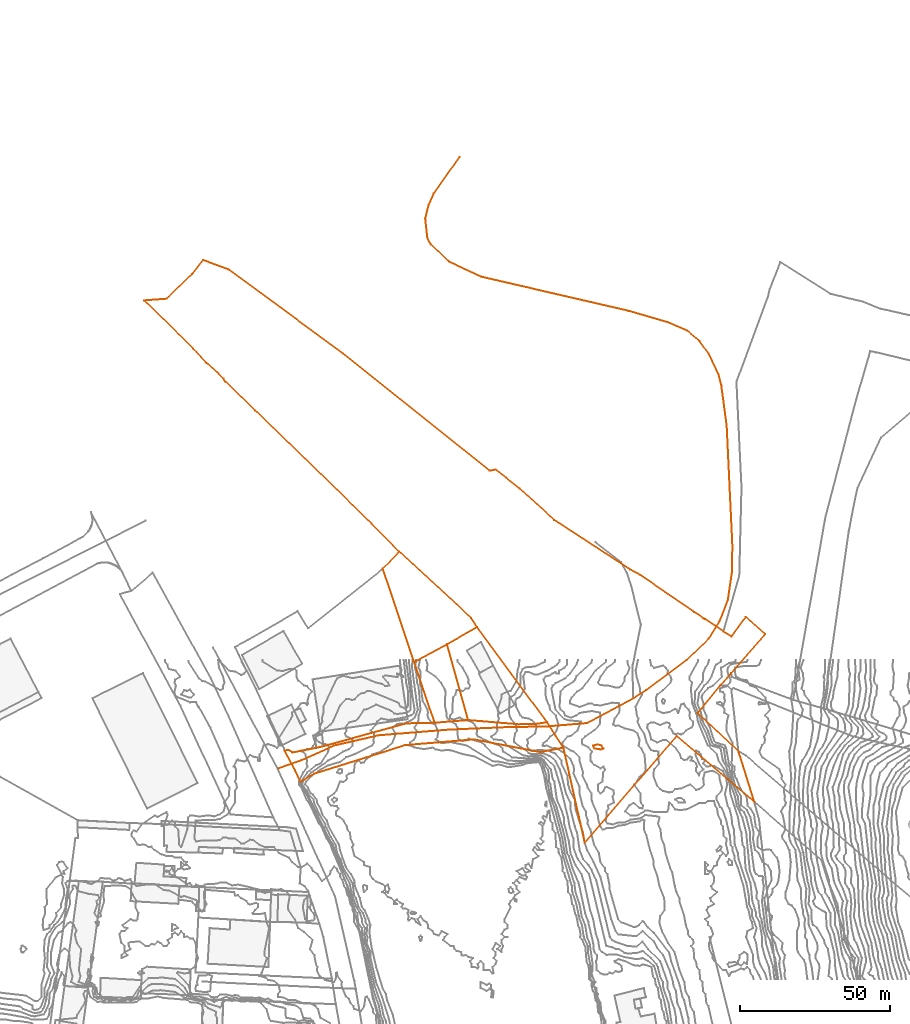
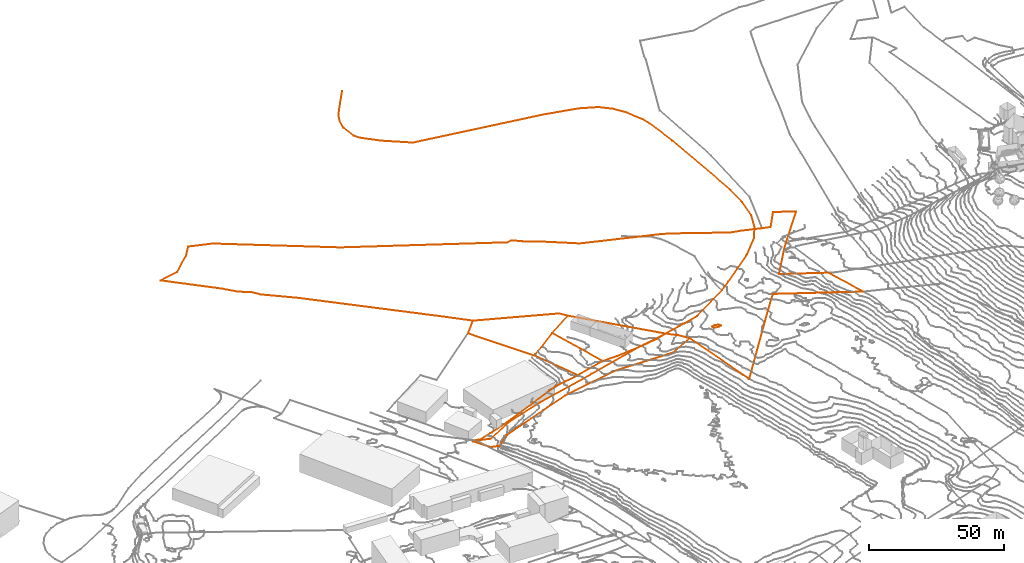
# Not in any storey, part 348 of 419: 8 proxies.
"""IFC2X3 model written with IfcOpenShell, lengths in metres."""

from ifc_helpers import new_model, entity, si_unit, frame, origin_with_axes, place, context, subcontext, project, element, save


model = new_model("IFC2X3")

# Units and contexts
model_context = context("Model", 3, precision=1e-05, world=origin_with_axes())
body_context = subcontext(model_context, "Body", "Model", "MODEL_VIEW")
ifc_project = project(units=[si_unit("AREAUNIT", "SQUARE_METRE"), si_unit("LENGTHUNIT", "METRE")], contexts=[model_context])

# Proxies
proxy_1_placement = place(None, frame((595.2920204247, 996.1976909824, 57.1), z_axis=(0.0, 0.0, 1.0), x_axis=(1.0, 0.0, 0.0)))
element("IfcBuildingElementProxy", 1, at=proxy_1_placement, Name="Route 46", ObjectType="NOTDEFINED", context=body_context, shape_type="GeometricCurveSet", body=[
    entity("IfcGeometricCurveSet", [entity("IfcPolyline", [entity("IfcCartesianPoint", [0.0, 0.0, 0.0]), entity("IfcCartesianPoint", [8.0, 2.7999999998, -3.7]), entity("IfcCartesianPoint", [18.9, 7.7000000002, -2.7]), entity("IfcCartesianPoint", [33.6000000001, 11.1000000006, -1.3]), entity("IfcCartesianPoint", [57.1000000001, 13.0, 2.3]), entity("IfcCartesianPoint", [78.1000000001, 13.9000000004, 6.7]), entity("IfcCartesianPoint", [89.1000000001, 14.0, 8.6]), entity("IfcCartesianPoint", [97.5, 14.7000000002, 9.9]), entity("IfcCartesianPoint", [103.3, 15.2000000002, 10.9]), entity("IfcCartesianPoint", [118.8, 23.5, 12.1])])]),
])
proxy_2_placement = place(None, frame((644.5920204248, 1179.8976909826, 70.0), z_axis=(0.0, 0.0, 1.0), x_axis=(1.0, 0.0, 0.0)))
element("IfcBuildingElementProxy", 2, at=proxy_2_placement, Name="Route 285", ObjectType="NOTDEFINED", context=body_context, shape_type="GeometricCurveSet", body=[
    entity("IfcGeometricCurveSet", [entity("IfcPolyline", [entity("IfcCartesianPoint", [69.5, -160.2000000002, -0.8]), entity("IfcCartesianPoint", [73.8, -157.5, 0.1]), entity("IfcCartesianPoint", [87.3, -147.4000000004, 0.8]), entity("IfcCartesianPoint", [94.7, -140.2999999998, 1.9]), entity("IfcCartesianPoint", [98.3, -134.5, 2.2]), entity("IfcCartesianPoint", [101.1, -127.2000000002, 2.2]), entity("IfcCartesianPoint", [102.4, -118.2999999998, 2.2]), entity("IfcCartesianPoint", [102.6, -109.4000000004, 2.1]), entity("IfcCartesianPoint", [100.7, -69.2999999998, 0.9]), entity("IfcCartesianPoint", [98.9, -55.7000000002, 1.0]), entity("IfcCartesianPoint", [98.0, -52.0999999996, 1.0]), entity("IfcCartesianPoint", [94.7, -45.0999999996, 1.1]), entity("IfcCartesianPoint", [91.6, -40.9000000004, 1.2]), entity("IfcCartesianPoint", [87.4, -37.4000000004, 1.3]), entity("IfcCartesianPoint", [80.9, -34.5999999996, 1.3]), entity("IfcCartesianPoint", [67.9, -30.7999999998, 0.8]), entity("IfcCartesianPoint", [18.6, -19.4000000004, -1.6]), entity("IfcCartesianPoint", [7.9, -14.4000000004, 0.0]), entity("IfcCartesianPoint", [1.9, -8.7000000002, 0.0]), entity("IfcCartesianPoint", [0.7, -6.5, 0.0]), entity("IfcCartesianPoint", [0.0, 0.0, 0.0]), entity("IfcCartesianPoint", [1.1, 4.5999999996, 0.0]), entity("IfcCartesianPoint", [2.8, 8.4000000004, 0.0]), entity("IfcCartesianPoint", [11.4, 20.5999999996, 0.0])])]),
])
proxy_3_placement = place(None, frame((651.8320204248, 1037.7176909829, 60.703598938), z_axis=(0.0, 0.0, 1.0), x_axis=(1.0, 0.0, 0.0)))
element("IfcBuildingElementProxy", 3, at=proxy_3_placement, Name="Cadastre 58", ObjectType="NOTDEFINED", context=body_context, shape_type="GeometricCurveSet", body=[
    entity("IfcGeometricCurveSet", [entity("IfcPolyline", [entity("IfcCartesianPoint", [10.0700000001, 5.7699999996, 0.8488022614]), entity("IfcCartesianPoint", [33.4600000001, -26.0499999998, 3.8508020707]), entity("IfcCartesianPoint", [29.29, -26.6500000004, 3.2884984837]), entity("IfcCartesianPoint", [24.0, -26.7400000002, 2.5190096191]), entity("IfcCartesianPoint", [12.9600000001, -25.8300000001, 0.7835009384]), entity("IfcCartesianPoint", [7.0800000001, -25.3300000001, 0.2491367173]), entity("IfcCartesianPoint", [0.0, 0.0, 0.0]), entity("IfcCartesianPoint", [10.0700000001, 5.7699999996, 0.8488022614])])]),
])
proxy_4_placement = place(None, frame((597.6120204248, 1002.2676909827, 52.1743022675), z_axis=(0.0, 0.0, 1.0), x_axis=(1.0, 0.0, 0.0)))
element("IfcBuildingElementProxy", 4, at=proxy_4_placement, Name="Cadastre 59", ObjectType="NOTDEFINED", context=body_context, shape_type="GeometricCurveSet", body=[
    entity("IfcGeometricCurveSet", [entity("IfcPolyline", [entity("IfcCartesianPoint", [5.29, -10.4199999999, 2.5101271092]), entity("IfcCartesianPoint", [3.51, -6.75, 0.3335411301]), entity("IfcCartesianPoint", [0.0, 0.0, 0.0]), entity("IfcCartesianPoint", [1.34, 0.1100000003, 0.145009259]), entity("IfcCartesianPoint", [2.5, -0.5499999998, 0.3895372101]), entity("IfcCartesianPoint", [2.64, -0.7000000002, 0.4123171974]), entity("IfcCartesianPoint", [5.6800000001, -0.0999999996, 0.8282374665]), entity("IfcCartesianPoint", [10.5, 0.8499999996, 1.3891530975]), entity("IfcCartesianPoint", [12.98, 1.4100000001, 1.6740975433]), entity("IfcCartesianPoint", [40.53, 9.0099999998, 5.3415789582]), entity("IfcCartesianPoint", [50.12, 9.2400000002, 6.8516425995]), entity("IfcCartesianPoint", [61.3, 10.1200000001, 8.7784333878]), entity("IfcCartesianPoint", [67.1800000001, 9.6200000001, 9.312797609]), entity("IfcCartesianPoint", [78.22, 8.71, 11.0483062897]), entity("IfcCartesianPoint", [83.51, 8.7999999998, 11.8177951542]), entity("IfcCartesianPoint", [87.6800000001, 9.4000000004, 12.3800987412]), entity("IfcCartesianPoint", [90.52, 4.9100000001, 13.3420726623]), entity("IfcCartesianPoint", [93.14, 0.9299999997, 13.5241800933]), entity("IfcCartesianPoint", [85.3, -0.5800000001, 10.7606307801]), entity("IfcCartesianPoint", [63.1899999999, 3.6699999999, 7.8312033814]), entity("IfcCartesianPoint", [40.29, 1.7599999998, 5.6466333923]), entity("IfcCartesianPoint", [9.86, -7.7800000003, 4.1751698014]), entity("IfcCartesianPoint", [5.29, -10.4199999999, 2.5101271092])])]),
])
proxy_5_placement = place(None, frame((640.8720204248, 1031.7776909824, 57.9277201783), z_axis=(0.0, 0.0, 1.0), x_axis=(1.0, 0.0, 0.0)))
element("IfcBuildingElementProxy", 5, at=proxy_5_placement, Name="Cadastre 60", ObjectType="NOTDEFINED", context=body_context, shape_type="GeometricCurveSet", body=[
    entity("IfcGeometricCurveSet", [entity("IfcPolyline", [entity("IfcCartesianPoint", [6.86, -20.2699999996, 1.0982246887]), entity("IfcCartesianPoint", [0.0, 0.0, 0.0]), entity("IfcCartesianPoint", [10.96, 5.9400000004, 2.7758787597]), entity("IfcCartesianPoint", [18.04, -19.3899999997, 3.025015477]), entity("IfcCartesianPoint", [6.86, -20.2699999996, 1.0982246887])])]),
])
proxy_6_placement = place(None, frame((550.6520204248, 1152.5776909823, 50.3106012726), z_axis=(0.0, 0.0, 1.0), x_axis=(1.0, 0.0, 0.0)))
element("IfcBuildingElementProxy", 6, at=proxy_6_placement, Name="Cadastre 61", ObjectType="NOTDEFINED", context=body_context, shape_type="GeometricCurveSet", body=[
    entity("IfcGeometricCurveSet", [entity("IfcPolyline", [entity("IfcCartesianPoint", [203.86, -167.5799999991, 25.1873183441]), entity("IfcCartesianPoint", [177.9199999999, -145.5299999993, 19.8371494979]), entity("IfcCartesianPoint", [175.72, -147.9699999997, 19.6132113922]), entity("IfcCartesianPoint", [147.22, -181.1299999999, 13.7855592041]), entity("IfcCartesianPoint", [140.1, -149.3799999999, 15.3878810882]), entity("IfcCartesianPoint", [137.48, -145.3999999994, 15.2057736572]), entity("IfcCartesianPoint", [134.64, -140.9099999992, 14.2437997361]), entity("IfcCartesianPoint", [111.25, -109.0899999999, 11.2417999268]), entity("IfcCartesianPoint", [109.2999999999, -106.1099999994, 11.1309973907]), entity("IfcCartesianPoint", [85.23, -83.8499999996, 2.7878990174]), entity("IfcCartesianPoint", [76.0499999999, -74.5899999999, 2.4804994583]), entity("IfcCartesianPoint", [37.13, -36.7299999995, 1.4421980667]), entity("IfcCartesianPoint", [27.14, -27.0299999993, 0.5194005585]), entity("IfcCartesianPoint", [26.48, -26.04, 0.5469994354]), entity("IfcCartesianPoint", [24.9199999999, -24.4399999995, 0.7087992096]), entity("IfcCartesianPoint", [20.9199999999, -20.8999999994, 0.2785988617]), entity("IfcCartesianPoint", [16.4199999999, -16.0199999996, 0.3249990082]), entity("IfcCartesianPoint", [0.0, 0.0, 0.0]), entity("IfcCartesianPoint", [7.45, 0.5700000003, 0.8405983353]), entity("IfcCartesianPoint", [16.0499999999, 8.8500000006, 0.336099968]), entity("IfcCartesianPoint", [19.6599999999, 13.5100000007, 0.2309983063]), entity("IfcCartesianPoint", [28.2, 10.3300000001, 0.5168000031]), entity("IfcCartesianPoint", [66.5299999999, -17.7999999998, 2.4088991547]), entity("IfcCartesianPoint", [115.3999999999, -56.8699999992, 11.2855998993]), entity("IfcCartesianPoint", [117.47, -56.5, 11.2434990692]), entity("IfcCartesianPoint", [120.85, -59.2299999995, 11.2784990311]), entity("IfcCartesianPoint", [125.46, -62.8799999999, 11.8085985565]), entity("IfcCartesianPoint", [137.01, -73.3099999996, 13.1880999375]), entity("IfcCartesianPoint", [162.33, -89.8699999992, 18.6237982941]), entity("IfcCartesianPoint", [165.8099999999, -91.7699999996, 18.8264004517]), entity("IfcCartesianPoint", [183.7, -104.04, 20.4281960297]), entity("IfcCartesianPoint", [186.96, -106.1899999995, 21.4033979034]), entity("IfcCartesianPoint", [187.33, -106.4199999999, 21.4773995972]), entity("IfcCartesianPoint", [193.5, -110.5799999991, 22.9089980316]), entity("IfcCartesianPoint", [196.1799999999, -112.2799999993, 23.5533965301]), entity("IfcCartesianPoint", [200.98, -105.6999999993, 24.6778020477]), entity("IfcCartesianPoint", [207.48, -111.4699999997, 26.08039711]), entity("IfcCartesianPoint", [196.12, -124.46, 25.3734805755]), entity("IfcCartesianPoint", [192.38, -128.7199999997, 24.6422374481]), entity("IfcCartesianPoint", [184.9299999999, -137.8899999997, 21.7297226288]), entity("IfcCartesianPoint", [198.5599999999, -150.6199999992, 25.30107164]), entity("IfcCartesianPoint", [203.86, -167.5799999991, 25.1873183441])])]),
])
proxy_7_placement = place(None, frame((630.4020204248, 1062.9376909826, 52.8186015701), z_axis=(0.0, 0.0, 1.0), x_axis=(1.0, 0.0, 0.0)))
element("IfcBuildingElementProxy", 7, at=proxy_7_placement, Name="Cadastre 62", ObjectType="NOTDEFINED", context=body_context, shape_type="GeometricCurveSet", body=[
    entity("IfcGeometricCurveSet", [entity("IfcPolyline", [entity("IfcCartesianPoint", [5.48, 5.79, 0.2798987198]), entity("IfcCartesianPoint", [29.5499999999, -16.4699999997, 8.6229970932]), entity("IfcCartesianPoint", [31.5, -19.4500000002, 8.7337996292]), entity("IfcCartesianPoint", [21.4299999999, -25.2199999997, 7.8849973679]), entity("IfcCartesianPoint", [10.47, -31.1600000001, 5.1091186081]), entity("IfcCartesianPoint", [0.0, 0.0, 0.0]), entity("IfcCartesianPoint", [5.48, 5.79, 0.2798987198])])]),
])
proxy_8_placement = place(None, frame((700.6634645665, 1003.8976909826, 67.0), z_axis=(0.0, 0.0, 1.0), x_axis=(1.0, 0.0, 0.0)))
element("IfcBuildingElementProxy", 8, at=proxy_8_placement, Name="Contour 67.0 m", ObjectType="NOTDEFINED", context=body_context, shape_type="GeometricCurveSet", body=[
    entity("IfcGeometricCurveSet", [entity("IfcPolyline", [entity("IfcCartesianPoint", [2.4285558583, -1.2999923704, 0.0]), entity("IfcCartesianPoint", [3.4285391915, -1.0, 0.0]), entity("IfcCartesianPoint", [2.7921985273, 0.0, 0.0]), entity("IfcCartesianPoint", [1.4285558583, 0.3888865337, 0.0]), entity("IfcCartesianPoint", [0.0, 0.0, 0.0]), entity("IfcCartesianPoint", [0.4285808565, -1.0, 0.0]), entity("IfcCartesianPoint", [2.4285558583, -1.2999923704, 0.0])])]),
])

save(model, "model.ifc")
